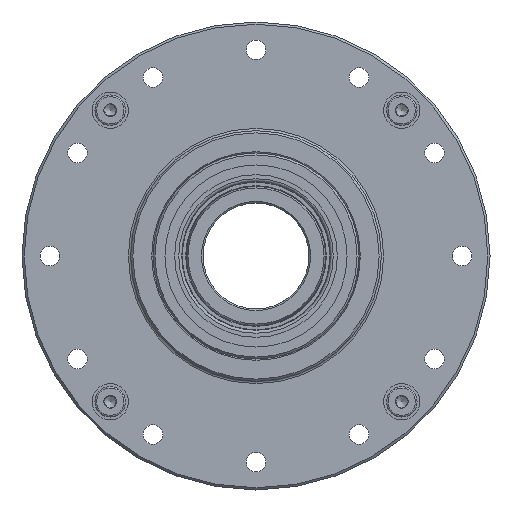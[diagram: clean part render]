
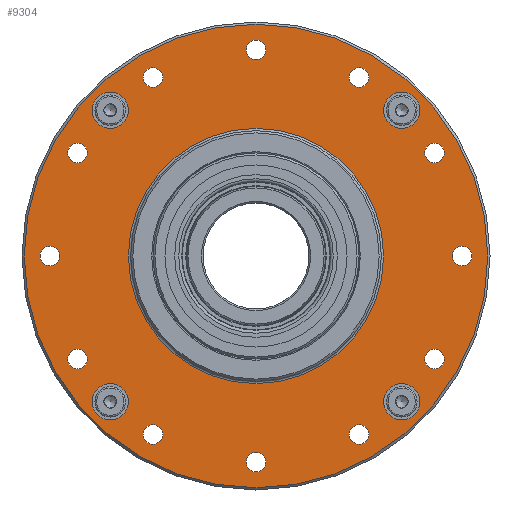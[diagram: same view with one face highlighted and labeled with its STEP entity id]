
A CAD part, left-side view. The second image highlights one B-rep face of the part: STEP entity #9304.
In plain terms, the highlighted planar face has unit normal (-1, 0, 0).
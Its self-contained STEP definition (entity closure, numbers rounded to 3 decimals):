
#1300=PLANE('',#15109);
#2940=EDGE_LOOP('',(#5492));
#2941=EDGE_LOOP('',(#5493));
#2942=EDGE_LOOP('',(#5494));
#2943=EDGE_LOOP('',(#5495));
#2944=EDGE_LOOP('',(#5496));
#2945=EDGE_LOOP('',(#5497));
#2946=EDGE_LOOP('',(#5498));
#2947=EDGE_LOOP('',(#5499));
#2948=EDGE_LOOP('',(#5500));
#2949=EDGE_LOOP('',(#5501));
#2950=EDGE_LOOP('',(#5502));
#2951=EDGE_LOOP('',(#5503));
#2952=EDGE_LOOP('',(#5504));
#2953=EDGE_LOOP('',(#5505));
#2954=EDGE_LOOP('',(#5506));
#2955=EDGE_LOOP('',(#5507));
#2956=EDGE_LOOP('',(#5508));
#2957=EDGE_LOOP('',(#5509));
#5492=ORIENTED_EDGE('',*,*,#7499,.T.);
#5493=ORIENTED_EDGE('',*,*,#7492,.T.);
#5494=ORIENTED_EDGE('',*,*,#7490,.T.);
#5495=ORIENTED_EDGE('',*,*,#7488,.T.);
#5496=ORIENTED_EDGE('',*,*,#7486,.T.);
#5497=ORIENTED_EDGE('',*,*,#7484,.T.);
#5498=ORIENTED_EDGE('',*,*,#7482,.T.);
#5499=ORIENTED_EDGE('',*,*,#7480,.T.);
#5500=ORIENTED_EDGE('',*,*,#7478,.T.);
#5501=ORIENTED_EDGE('',*,*,#7476,.T.);
#5502=ORIENTED_EDGE('',*,*,#7474,.T.);
#5503=ORIENTED_EDGE('',*,*,#7472,.T.);
#5504=ORIENTED_EDGE('',*,*,#7470,.T.);
#5505=ORIENTED_EDGE('',*,*,#7465,.T.);
#5506=ORIENTED_EDGE('',*,*,#7461,.T.);
#5507=ORIENTED_EDGE('',*,*,#7457,.T.);
#5508=ORIENTED_EDGE('',*,*,#7453,.T.);
#5509=ORIENTED_EDGE('',*,*,#7446,.T.);
#7446=EDGE_CURVE('',#12209,#12209,#13549,.T.);
#7453=EDGE_CURVE('',#12216,#12216,#13556,.T.);
#7457=EDGE_CURVE('',#12220,#12220,#13560,.T.);
#7461=EDGE_CURVE('',#12224,#12224,#13564,.T.);
#7465=EDGE_CURVE('',#12228,#12228,#13568,.T.);
#7470=EDGE_CURVE('',#12233,#12233,#13573,.T.);
#7472=EDGE_CURVE('',#12235,#12235,#13575,.T.);
#7474=EDGE_CURVE('',#12237,#12237,#13577,.T.);
#7476=EDGE_CURVE('',#12239,#12239,#13579,.T.);
#7478=EDGE_CURVE('',#12241,#12241,#13581,.T.);
#7480=EDGE_CURVE('',#12243,#12243,#13583,.T.);
#7482=EDGE_CURVE('',#12245,#12245,#13585,.T.);
#7484=EDGE_CURVE('',#12247,#12247,#13587,.T.);
#7486=EDGE_CURVE('',#12249,#12249,#13589,.T.);
#7488=EDGE_CURVE('',#12251,#12251,#13591,.T.);
#7490=EDGE_CURVE('',#12253,#12253,#13593,.T.);
#7492=EDGE_CURVE('',#12255,#12255,#13595,.T.);
#7499=EDGE_CURVE('',#12262,#12262,#13602,.T.);
#9304=ADVANCED_FACE('',(#10719,#10720,#10721,#10722,#10723,#10724,#10725,
#10726,#10727,#10728,#10729,#10730,#10731,#10732,#10733,#10734,#10735,#10736),
#1300,.F.);
#10719=FACE_BOUND('',#2940,.T.);
#10720=FACE_BOUND('',#2941,.T.);
#10721=FACE_BOUND('',#2942,.T.);
#10722=FACE_BOUND('',#2943,.T.);
#10723=FACE_BOUND('',#2944,.T.);
#10724=FACE_BOUND('',#2945,.T.);
#10725=FACE_BOUND('',#2946,.T.);
#10726=FACE_BOUND('',#2947,.T.);
#10727=FACE_BOUND('',#2948,.T.);
#10728=FACE_BOUND('',#2949,.T.);
#10729=FACE_BOUND('',#2950,.T.);
#10730=FACE_BOUND('',#2951,.T.);
#10731=FACE_BOUND('',#2952,.T.);
#10732=FACE_BOUND('',#2953,.T.);
#10733=FACE_BOUND('',#2954,.T.);
#10734=FACE_BOUND('',#2955,.T.);
#10735=FACE_BOUND('',#2956,.T.);
#10736=FACE_BOUND('',#2957,.T.);
#12209=VERTEX_POINT('',#23937);
#12216=VERTEX_POINT('',#23955);
#12220=VERTEX_POINT('',#23966);
#12224=VERTEX_POINT('',#23977);
#12228=VERTEX_POINT('',#23988);
#12233=VERTEX_POINT('',#24001);
#12235=VERTEX_POINT('',#24006);
#12237=VERTEX_POINT('',#24011);
#12239=VERTEX_POINT('',#24016);
#12241=VERTEX_POINT('',#24021);
#12243=VERTEX_POINT('',#24026);
#12245=VERTEX_POINT('',#24031);
#12247=VERTEX_POINT('',#24036);
#12249=VERTEX_POINT('',#24041);
#12251=VERTEX_POINT('',#24046);
#12253=VERTEX_POINT('',#24051);
#12255=VERTEX_POINT('',#24056);
#12262=VERTEX_POINT('',#24074);
#13549=CIRCLE('',#14978,22.9);
#13556=CIRCLE('',#14989,3.25);
#13560=CIRCLE('',#14996,3.25);
#13564=CIRCLE('',#15003,3.25);
#13568=CIRCLE('',#15010,3.25);
#13573=CIRCLE('',#15018,1.75);
#13575=CIRCLE('',#15021,1.75);
#13577=CIRCLE('',#15024,1.75);
#13579=CIRCLE('',#15027,1.75);
#13581=CIRCLE('',#15030,1.75);
#13583=CIRCLE('',#15033,1.75);
#13585=CIRCLE('',#15036,1.75);
#13587=CIRCLE('',#15039,1.75);
#13589=CIRCLE('',#15042,1.75);
#13591=CIRCLE('',#15045,1.75);
#13593=CIRCLE('',#15048,1.75);
#13595=CIRCLE('',#15051,1.75);
#13602=CIRCLE('',#15062,41.6);
#14978=AXIS2_PLACEMENT_3D('',#23936,#17993,#17994);
#14989=AXIS2_PLACEMENT_3D('',#23954,#18015,#18016);
#14996=AXIS2_PLACEMENT_3D('',#23965,#18029,#18030);
#15003=AXIS2_PLACEMENT_3D('',#23976,#18043,#18044);
#15010=AXIS2_PLACEMENT_3D('',#23987,#18057,#18058);
#15018=AXIS2_PLACEMENT_3D('',#24000,#18073,#18074);
#15021=AXIS2_PLACEMENT_3D('',#24005,#18079,#18080);
#15024=AXIS2_PLACEMENT_3D('',#24010,#18085,#18086);
#15027=AXIS2_PLACEMENT_3D('',#24015,#18091,#18092);
#15030=AXIS2_PLACEMENT_3D('',#24020,#18097,#18098);
#15033=AXIS2_PLACEMENT_3D('',#24025,#18103,#18104);
#15036=AXIS2_PLACEMENT_3D('',#24030,#18109,#18110);
#15039=AXIS2_PLACEMENT_3D('',#24035,#18115,#18116);
#15042=AXIS2_PLACEMENT_3D('',#24040,#18121,#18122);
#15045=AXIS2_PLACEMENT_3D('',#24045,#18127,#18128);
#15048=AXIS2_PLACEMENT_3D('',#24050,#18133,#18134);
#15051=AXIS2_PLACEMENT_3D('',#24055,#18139,#18140);
#15062=AXIS2_PLACEMENT_3D('',#24073,#18161,#18162);
#15109=AXIS2_PLACEMENT_3D('',#24141,#18255,#18256);
#17993=DIRECTION('',(1.,0.,0.));
#17994=DIRECTION('',(0.,0.,-1.));
#18015=DIRECTION('',(1.,0.,0.));
#18016=DIRECTION('',(0.,1.,0.));
#18029=DIRECTION('',(1.,0.,0.));
#18030=DIRECTION('',(0.,0.,1.));
#18043=DIRECTION('',(1.,0.,0.));
#18044=DIRECTION('',(0.,-1.,0.));
#18057=DIRECTION('',(1.,0.,0.));
#18058=DIRECTION('',(0.,0.,-1.));
#18073=DIRECTION('',(1.,0.,0.));
#18074=DIRECTION('',(0.,0.866,-0.5));
#18079=DIRECTION('',(1.,0.,0.));
#18080=DIRECTION('',(0.,1.,0.));
#18085=DIRECTION('',(1.,0.,0.));
#18086=DIRECTION('',(0.,0.866,0.5));
#18091=DIRECTION('',(1.,0.,0.));
#18092=DIRECTION('',(0.,0.5,0.866));
#18097=DIRECTION('',(1.,0.,0.));
#18098=DIRECTION('',(0.,0.,1.));
#18103=DIRECTION('',(1.,0.,0.));
#18104=DIRECTION('',(0.,-0.5,0.866));
#18109=DIRECTION('',(1.,0.,0.));
#18110=DIRECTION('',(0.,-0.866,0.5));
#18115=DIRECTION('',(1.,0.,0.));
#18116=DIRECTION('',(0.,-1.,0.));
#18121=DIRECTION('',(1.,0.,0.));
#18122=DIRECTION('',(0.,-0.866,-0.5));
#18127=DIRECTION('',(1.,0.,0.));
#18128=DIRECTION('',(0.,-0.5,-0.866));
#18133=DIRECTION('',(1.,0.,0.));
#18134=DIRECTION('',(0.,0.5,-0.866));
#18139=DIRECTION('',(1.,0.,0.));
#18140=DIRECTION('',(0.,0.,-1.));
#18161=DIRECTION('',(-1.,0.,0.));
#18162=DIRECTION('',(0.,0.,-1.));
#18255=DIRECTION('',(1.,0.,0.));
#18256=DIRECTION('',(0.,0.,-1.));
#23936=CARTESIAN_POINT('',(12.,0.,0.));
#23937=CARTESIAN_POINT('',(12.,0.,-22.9));
#23954=CARTESIAN_POINT('',(12.,-26.163,26.163));
#23955=CARTESIAN_POINT('',(12.,-22.913,26.163));
#23965=CARTESIAN_POINT('',(12.,-26.163,-26.163));
#23966=CARTESIAN_POINT('',(12.,-26.163,-22.913));
#23976=CARTESIAN_POINT('',(12.,26.163,-26.163));
#23977=CARTESIAN_POINT('',(12.,22.913,-26.163));
#23987=CARTESIAN_POINT('',(12.,26.163,26.163));
#23988=CARTESIAN_POINT('',(12.,26.163,22.913));
#24000=CARTESIAN_POINT('',(12.,18.5,32.043));
#24001=CARTESIAN_POINT('',(12.,20.016,31.168));
#24005=CARTESIAN_POINT('',(12.,0.,37.));
#24006=CARTESIAN_POINT('',(12.,1.75,37.));
#24010=CARTESIAN_POINT('',(12.,-18.5,32.043));
#24011=CARTESIAN_POINT('',(12.,-16.984,32.918));
#24015=CARTESIAN_POINT('',(12.,-32.043,18.5));
#24016=CARTESIAN_POINT('',(12.,-31.168,20.016));
#24020=CARTESIAN_POINT('',(12.,-37.,0.));
#24021=CARTESIAN_POINT('',(12.,-37.,1.75));
#24025=CARTESIAN_POINT('',(12.,-32.043,-18.5));
#24026=CARTESIAN_POINT('',(12.,-32.918,-16.984));
#24030=CARTESIAN_POINT('',(12.,-18.5,-32.043));
#24031=CARTESIAN_POINT('',(12.,-20.016,-31.168));
#24035=CARTESIAN_POINT('',(12.,0.,-37.));
#24036=CARTESIAN_POINT('',(12.,-1.75,-37.));
#24040=CARTESIAN_POINT('',(12.,18.5,-32.043));
#24041=CARTESIAN_POINT('',(12.,16.984,-32.918));
#24045=CARTESIAN_POINT('',(12.,32.043,-18.5));
#24046=CARTESIAN_POINT('',(12.,31.168,-20.016));
#24050=CARTESIAN_POINT('',(12.,32.043,18.5));
#24051=CARTESIAN_POINT('',(12.,32.918,16.984));
#24055=CARTESIAN_POINT('',(12.,37.,0.));
#24056=CARTESIAN_POINT('',(12.,37.,-1.75));
#24073=CARTESIAN_POINT('',(12.,0.,0.));
#24074=CARTESIAN_POINT('',(12.,0.,-41.6));
#24141=CARTESIAN_POINT('',(12.,42.,0.));
